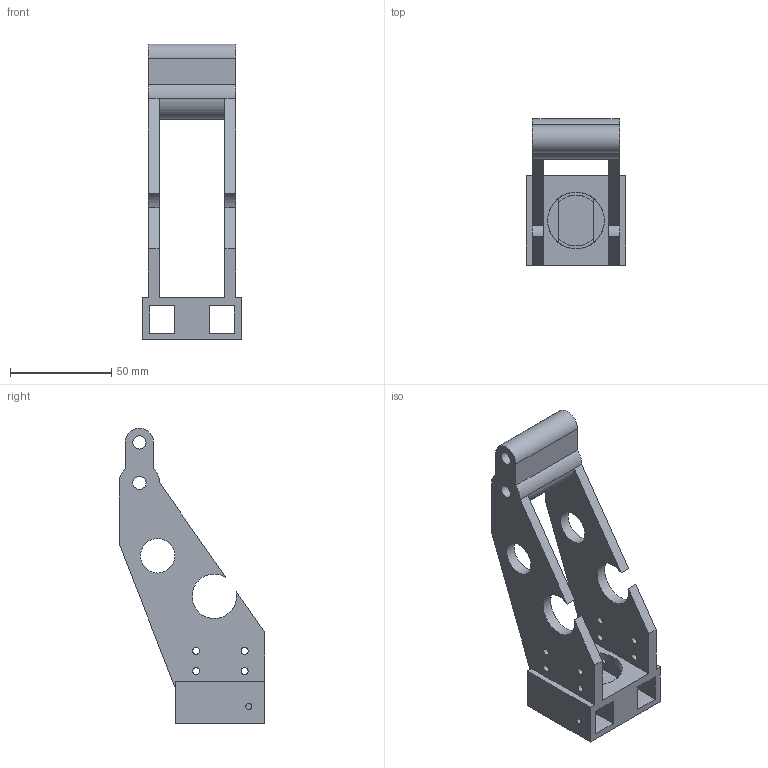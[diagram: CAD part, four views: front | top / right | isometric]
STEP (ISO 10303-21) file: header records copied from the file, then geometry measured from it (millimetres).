
FILE_DESCRIPTION(('Open CASCADE Model'),'2;1');
FILE_NAME('Open CASCADE Shape Model','2026-10-15T20:56:35',('Author'),( 'Open CASCADE'),'Open CASCADE STEP processor 7.9','Open CASCADE 7.9' ,'Unknown');
FILE_SCHEMA(('AUTOMOTIVE_DESIGN { 1 0 10303 214 1 1 1 1 }'));
Length unit declared in the file: millimetre
Products named in the file (1): Open CASCADE STEP translator 7.9 2
Bounding box: 49 x 72 x 146.04 mm (x, y, z)
Volume: 80183.2 mm3; surface area: 35866.3 mm2
Topology: 1 solids, 1 shells, 55 faces, 172 edges, 114 vertices
Faces by surface type: plane 33, cylinder 22
Full cylindrical faces by diameter (mm): 3 x2, 3.4 x8, 6.6 x2, 17 x2, 28 x1
Entity records: 4344 total; most frequent: CARTESIAN_POINT 890, DIRECTION 644, LINE 416, VECTOR 416, ORIENTED_EDGE 344, PCURVE 344, DEFINITIONAL_REPRESENTATION 344, EDGE_CURVE 172
